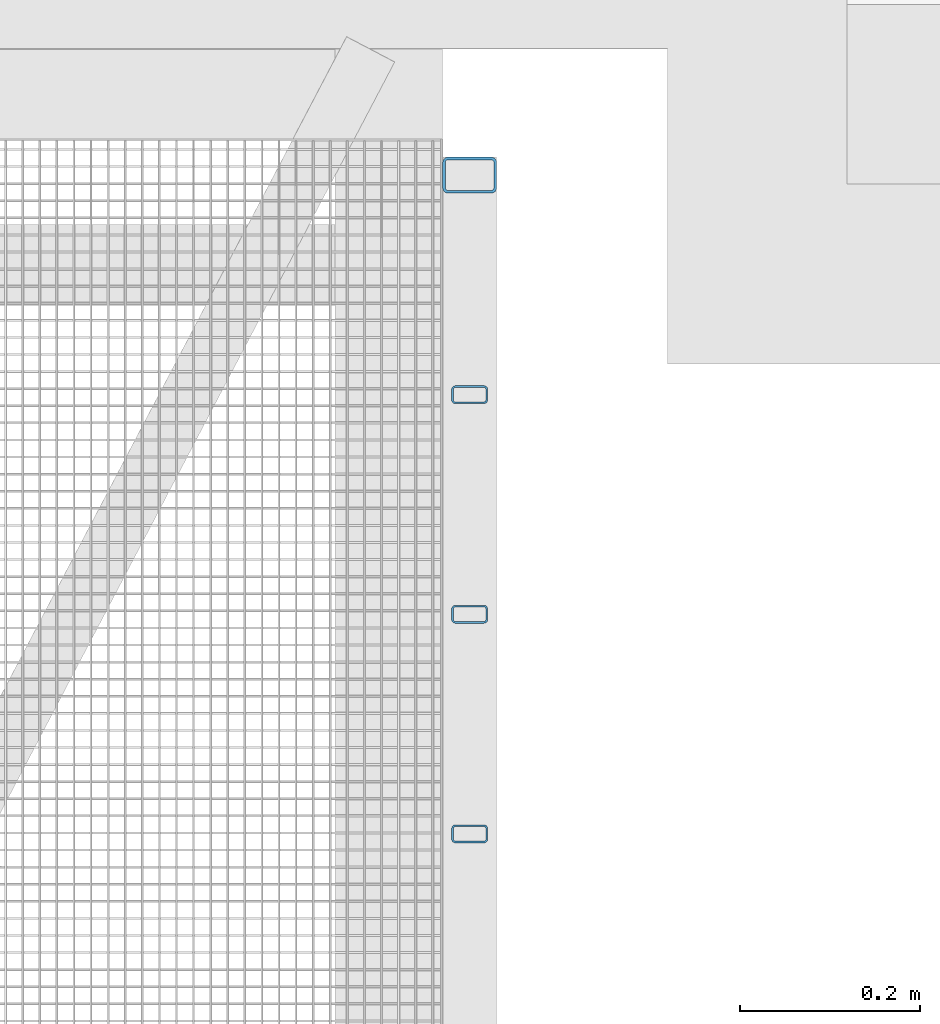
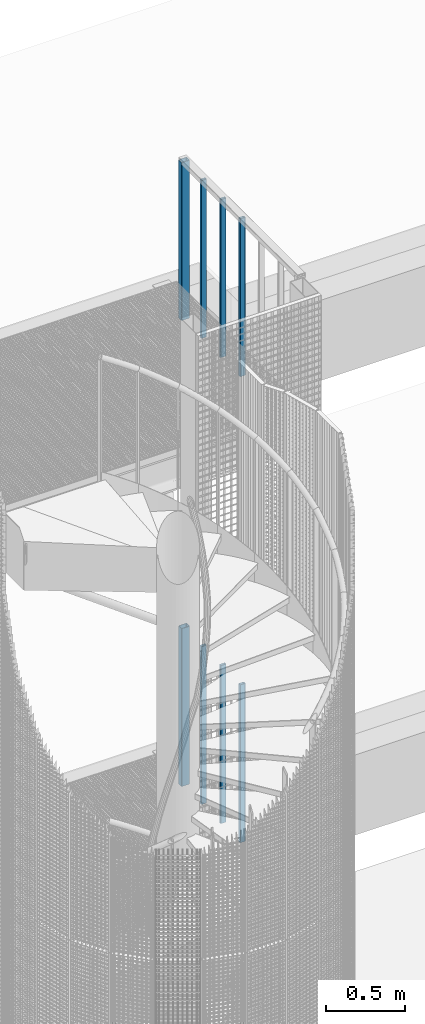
# One storey, part 35 of 1183: 8 columns, 8 elements without a shape of their own.
"""IFC2X3 building model written with IfcOpenShell, lengths in millimetres."""

from ifc_helpers import new_model, si_unit, frame, origin_with_axes, origin_2d_with_axis, place, context, subcontext, project, spatial, hollow_rectangle, extrude, material, type_object, element, aggregate, save


model = new_model("IFC2X3")

# Units and contexts
model_context = context("Model", 3, precision=1e-05, world=origin_with_axes())
body_context = subcontext(model_context, "Body", "Model", "MODEL_VIEW")
ifc_project = project(units=[si_unit("LENGTHUNIT", "METRE", prefix="MILLI"), si_unit("AREAUNIT", "SQUARE_METRE"), si_unit("VOLUMEUNIT", "CUBIC_METRE"), si_unit("MASSUNIT", "GRAM", prefix="KILO"), si_unit("TIMEUNIT", "SECOND"), si_unit("PLANEANGLEUNIT", "RADIAN"), si_unit("SOLIDANGLEUNIT", "STERADIAN"), si_unit("THERMODYNAMICTEMPERATUREUNIT", "DEGREE_CELSIUS"), si_unit("LUMINOUSINTENSITYUNIT", "LUMEN")], contexts=[model_context])

# Site, building, storey
site_placement = place(None, origin_with_axes())
site = spatial("IfcSite", under=ifc_project, at=site_placement, Name="Undefined", CompositionType="ELEMENT")
building_placement = place(site_placement, origin_with_axes())
building = spatial("IfcBuilding", under=site, at=building_placement, Name="Undefined", CompositionType="ELEMENT")
storey_placement = place(building_placement, origin_with_axes())
storey = spatial("IfcBuildingStorey", under=building, at=storey_placement, Name="Undefined", CompositionType="ELEMENT", Elevation=0.0)

# Assembly, column
assembly_1_placement = place(storey_placement, origin_with_axes())
assembly_1 = element("IfcElementAssembly", 1, at=assembly_1_placement, inside=storey, Name="STANCHION", AssemblyPlace="NOTDEFINED", PredefinedType="NOTDEFINED")
ifc_material = material(Name="Undefined/FE510D")
column_type_1 = type_object("IfcColumnType", Name="TUBE-R-40*20*2", PredefinedType="NOTDEFINED")
column_1_placement = place(assembly_1_placement, frame((1580.06490345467, 2415.85979616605, 17020.0), z_axis=(0.0, 0.0, 1.0), x_axis=(0.999999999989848, 4.50600000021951e-06, 0.0)))
column_1 = element("IfcColumn", 2, at=column_1_placement, type_object=column_type_1, material=ifc_material, Name="STANCHION", context=body_context, shape_type="SweptSolid", body=[
    extrude(hollow_rectangle(XDim=20.0, YDim=40.0, WallThickness=2.0, InnerFilletRadius=2.0, OuterFilletRadius=4.0, at=origin_2d_with_axis()), frame((0.0, 0.0, 1219.99999999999), z_axis=(0.0, 0.0, -1.0), x_axis=(0.0, 1.0, 0.0)), (0.0, 0.0, 1.0), 1220.0),
])
aggregate(assembly_1, [column_1])

assembly_2_placement = place(storey_placement, origin_with_axes())
assembly_2 = element("IfcElementAssembly", 3, at=assembly_2_placement, inside=storey, Name="STANCHION", AssemblyPlace="NOTDEFINED", PredefinedType="NOTDEFINED")
column_2_placement = place(assembly_2_placement, frame((1580.06600368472, 2171.68979616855, 17020.0), z_axis=(0.0, 0.0, 1.0), x_axis=(0.999999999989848, 4.50600000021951e-06, 0.0)))
column_2 = element("IfcColumn", 4, at=column_2_placement, type_object=column_type_1, material=ifc_material, Name="STANCHION", context=body_context, shape_type="SweptSolid", body=[
    extrude(hollow_rectangle(XDim=20.0, YDim=40.0, WallThickness=2.0, InnerFilletRadius=2.0, OuterFilletRadius=4.0, at=origin_2d_with_axis()), frame((0.0, 0.0, 1219.99999999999), z_axis=(0.0, 0.0, -1.0), x_axis=(0.0, 1.0, 0.0)), (0.0, 0.0, 1.0), 1220.0),
])
aggregate(assembly_2, [column_2])

assembly_3_placement = place(storey_placement, origin_with_axes())
assembly_3 = element("IfcElementAssembly", 5, at=assembly_3_placement, inside=storey, Name="STANCHION", AssemblyPlace="NOTDEFINED", PredefinedType="NOTDEFINED")
column_3_placement = place(assembly_3_placement, frame((1580.06710391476, 1927.51979617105, 17020.0), z_axis=(0.0, 0.0, 1.0), x_axis=(0.999999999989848, 4.50600000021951e-06, 0.0)))
column_3 = element("IfcColumn", 6, at=column_3_placement, type_object=column_type_1, material=ifc_material, Name="STANCHION", context=body_context, shape_type="SweptSolid", body=[
    extrude(hollow_rectangle(XDim=20.0, YDim=40.0, WallThickness=2.0, InnerFilletRadius=2.0, OuterFilletRadius=4.0, at=origin_2d_with_axis()), frame((0.0, 0.0, 1219.99999999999), z_axis=(0.0, 0.0, -1.0), x_axis=(0.0, 1.0, 0.0)), (0.0, 0.0, 1.0), 1220.0),
])
aggregate(assembly_3, [column_3])

assembly_4_placement = place(storey_placement, origin_with_axes())
assembly_4 = element("IfcElementAssembly", 7, at=assembly_4_placement, inside=storey, Name="STANCHION", AssemblyPlace="NOTDEFINED", PredefinedType="NOTDEFINED")
column_4_placement = place(assembly_4_placement, frame((1580.06490345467, 2415.85979616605, 13420.0), z_axis=(0.0, 0.0, 1.0), x_axis=(0.999999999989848, 4.50600000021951e-06, 0.0)))
column_4 = element("IfcColumn", 8, at=column_4_placement, type_object=column_type_1, material=ifc_material, Name="STANCHION", context=body_context, shape_type="SweptSolid", body=[
    extrude(hollow_rectangle(XDim=20.0, YDim=40.0, WallThickness=2.0, InnerFilletRadius=2.0, OuterFilletRadius=4.0, at=origin_2d_with_axis()), frame((0.0, 0.0, 1219.99999999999), z_axis=(0.0, 0.0, -1.0), x_axis=(0.0, 1.0, 0.0)), (0.0, 0.0, 1.0), 1220.0),
])
aggregate(assembly_4, [column_4])

assembly_5_placement = place(storey_placement, origin_with_axes())
assembly_5 = element("IfcElementAssembly", 9, at=assembly_5_placement, inside=storey, Name="STANCHION", AssemblyPlace="NOTDEFINED", PredefinedType="NOTDEFINED")
column_5_placement = place(assembly_5_placement, frame((1580.06600368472, 2171.68979616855, 13420.0), z_axis=(0.0, 0.0, 1.0), x_axis=(0.999999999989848, 4.50600000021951e-06, 0.0)))
column_5 = element("IfcColumn", 10, at=column_5_placement, type_object=column_type_1, material=ifc_material, Name="STANCHION", context=body_context, shape_type="SweptSolid", body=[
    extrude(hollow_rectangle(XDim=20.0, YDim=40.0, WallThickness=2.0, InnerFilletRadius=2.0, OuterFilletRadius=4.0, at=origin_2d_with_axis()), frame((0.0, 0.0, 1219.99999999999), z_axis=(0.0, 0.0, -1.0), x_axis=(0.0, 1.0, 0.0)), (0.0, 0.0, 1.0), 1220.0),
])
aggregate(assembly_5, [column_5])

assembly_6_placement = place(storey_placement, origin_with_axes())
assembly_6 = element("IfcElementAssembly", 11, at=assembly_6_placement, inside=storey, Name="STANCHION", AssemblyPlace="NOTDEFINED", PredefinedType="NOTDEFINED")
column_6_placement = place(assembly_6_placement, frame((1580.06710391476, 1927.51979617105, 13420.0), z_axis=(0.0, 0.0, 1.0), x_axis=(0.999999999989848, 4.50600000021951e-06, 0.0)))
column_6 = element("IfcColumn", 12, at=column_6_placement, type_object=column_type_1, material=ifc_material, Name="STANCHION", context=body_context, shape_type="SweptSolid", body=[
    extrude(hollow_rectangle(XDim=20.0, YDim=40.0, WallThickness=2.0, InnerFilletRadius=2.0, OuterFilletRadius=4.0, at=origin_2d_with_axis()), frame((0.0, 0.0, 1219.99999999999), z_axis=(0.0, 0.0, -1.0), x_axis=(0.0, 1.0, 0.0)), (0.0, 0.0, 1.0), 1220.0),
])
aggregate(assembly_6, [column_6])

assembly_7_placement = place(storey_placement, origin_with_axes())
assembly_7 = element("IfcElementAssembly", 13, at=assembly_7_placement, inside=storey, Name="STANCHION", AssemblyPlace="NOTDEFINED", PredefinedType="NOTDEFINED")
column_type_2 = type_object("IfcColumnType", Name="TUBE-R-60*40*3", PredefinedType="NOTDEFINED")
column_7_placement = place(assembly_7_placement, frame((1580.06365344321, 2660.00840282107, 17020.0), z_axis=(0.0, 0.0, 1.0), x_axis=(0.999999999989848, 4.50600000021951e-06, 0.0)))
column_7 = element("IfcColumn", 14, at=column_7_placement, type_object=column_type_2, material=ifc_material, Name="STANCHION", context=body_context, shape_type="SweptSolid", body=[
    extrude(hollow_rectangle(XDim=40.0, YDim=60.0, WallThickness=3.0, InnerFilletRadius=3.0, OuterFilletRadius=6.0, at=origin_2d_with_axis()), frame((0.0, 0.0, 1219.99999999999), z_axis=(0.0, 0.0, -1.0), x_axis=(0.0, 1.0, 0.0)), (0.0, 0.0, 1.0), 1220.0),
])
aggregate(assembly_7, [column_7])

assembly_8_placement = place(storey_placement, origin_with_axes())
assembly_8 = element("IfcElementAssembly", 15, at=assembly_8_placement, inside=storey, Name="STANCHION", AssemblyPlace="NOTDEFINED", PredefinedType="NOTDEFINED")
column_8_placement = place(assembly_8_placement, frame((1580.06365344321, 2660.00840282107, 13420.0), z_axis=(0.0, 0.0, 1.0), x_axis=(0.999999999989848, 4.50600000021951e-06, 0.0)))
column_8 = element("IfcColumn", 16, at=column_8_placement, type_object=column_type_2, material=ifc_material, Name="STANCHION", context=body_context, shape_type="SweptSolid", body=[
    extrude(hollow_rectangle(XDim=40.0, YDim=60.0, WallThickness=3.0, InnerFilletRadius=3.0, OuterFilletRadius=6.0, at=origin_2d_with_axis()), frame((0.0, 0.0, 1219.99999999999), z_axis=(0.0, 0.0, -1.0), x_axis=(0.0, 1.0, 0.0)), (0.0, 0.0, 1.0), 1220.0),
])
aggregate(assembly_8, [column_8])

save(model, "model.ifc")
